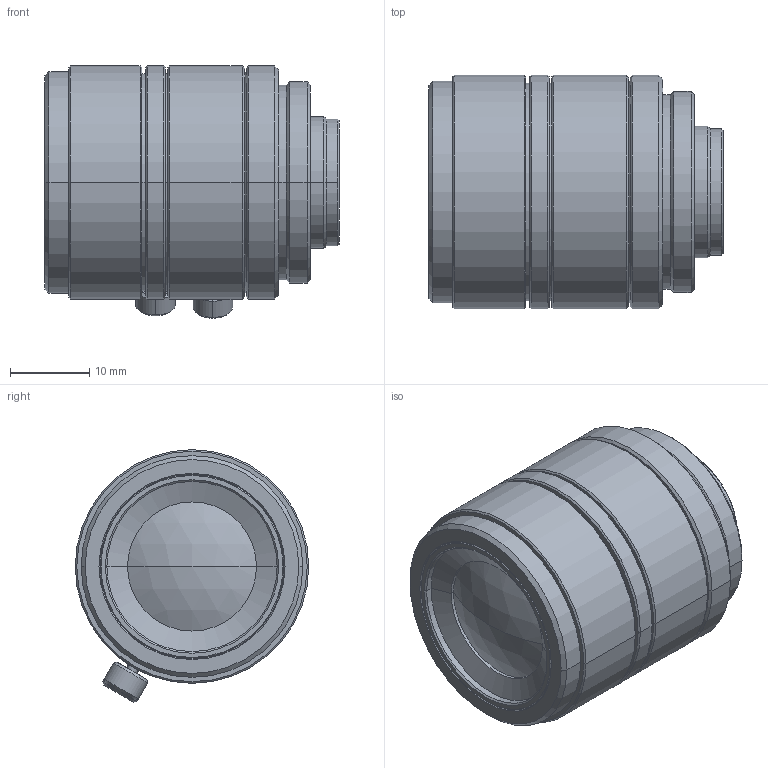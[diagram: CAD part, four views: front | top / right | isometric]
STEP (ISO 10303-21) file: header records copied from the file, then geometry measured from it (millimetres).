
FILE_DESCRIPTION (( 'STEP AP203' ), '1' );
FILE_NAME ('SV-04514V.STEP', '2013-10-24T07:42:31', ( 'VS Technology' ), ( '' ), 'SwSTEP 2.0', 'SolidWorks 2012', '' );
FILE_SCHEMA (( 'CONFIG_CONTROL_DESIGN' ));
Length unit declared in the file: millimetre
Products named in the file (1): SV-04514V
Bounding box: 37.13 x 29.5 x 31.9 mm (x, y, z)
Volume: 21581 mm3; surface area: 6251.5 mm2
Topology: 1 solids, 1 shells, 124 faces, 246 edges, 144 vertices
Faces by surface type: cone 54, cylinder 46, plane 20, sphere 4
Entity records: 3319 total; most frequent: DIRECTION 634, CARTESIAN_POINT 573, ORIENTED_EDGE 492, AXIS2_PLACEMENT_3D 267, EDGE_CURVE 246, EDGE_LOOP 144, VERTEX_POINT 144, CIRCLE 142
